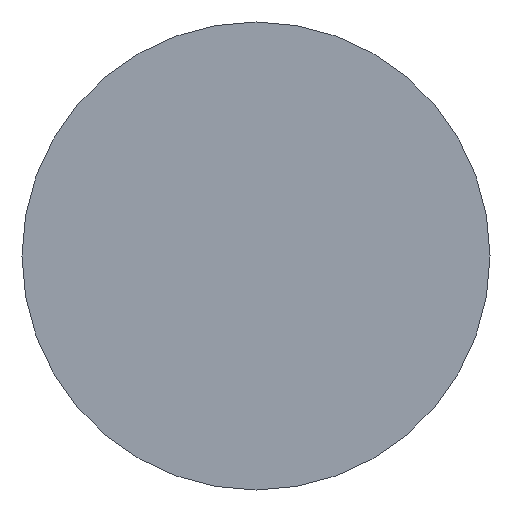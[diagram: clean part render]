
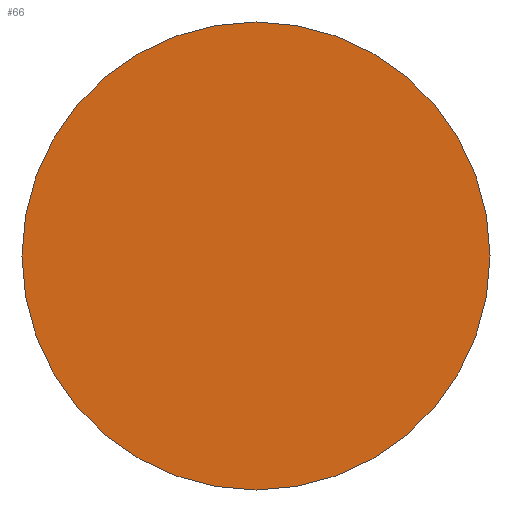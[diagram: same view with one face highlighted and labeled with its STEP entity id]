
A CAD part, front view. The second image highlights one B-rep face of the part: STEP entity #66.
In plain terms, the highlighted planar face has unit normal (0, -1, 0).
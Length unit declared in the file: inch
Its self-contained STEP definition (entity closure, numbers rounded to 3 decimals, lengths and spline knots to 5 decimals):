
#10 = PLANE ( 'NONE',  #85 ) ;
#20 = EDGE_LOOP ( 'NONE', ( #75 ) ) ;
#24 = EDGE_CURVE ( 'NONE', #79, #79, #60, .T. ) ;
#27 = DIRECTION ( 'NONE',  ( 0., 1., 0. ) ) ;
#42 = FACE_OUTER_BOUND ( 'NONE', #20, .T. ) ;
#49 = DIRECTION ( 'NONE',  ( 0., 0., 1. ) ) ;
#58 = DIRECTION ( 'NONE',  ( 0., 1., 0. ) ) ;
#59 = DIRECTION ( 'NONE',  ( 0., 0., 1. ) ) ;
#60 = CIRCLE ( 'NONE', #90, 0.3125 ) ;
#66 = ADVANCED_FACE ( 'NONE', ( #42 ), #10, .F. ) ;
#72 = CARTESIAN_POINT ( 'NONE',  ( 0., 0., 0.3125 ) ) ;
#75 = ORIENTED_EDGE ( 'NONE', *, *, #24, .F. ) ;
#79 = VERTEX_POINT ( 'NONE', #72 ) ;
#83 = CARTESIAN_POINT ( 'NONE',  ( 0., 0., 0. ) ) ;
#84 = CARTESIAN_POINT ( 'NONE',  ( 0., 0., 0. ) ) ;
#85 = AXIS2_PLACEMENT_3D ( 'NONE', #83, #27, #49 ) ;
#90 = AXIS2_PLACEMENT_3D ( 'NONE', #84, #58, #59 ) ;
